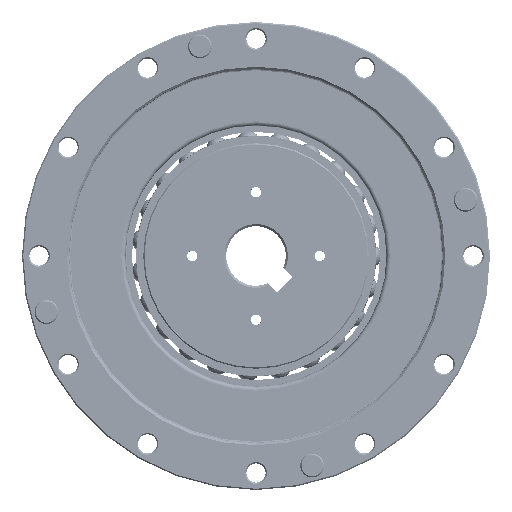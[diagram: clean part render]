
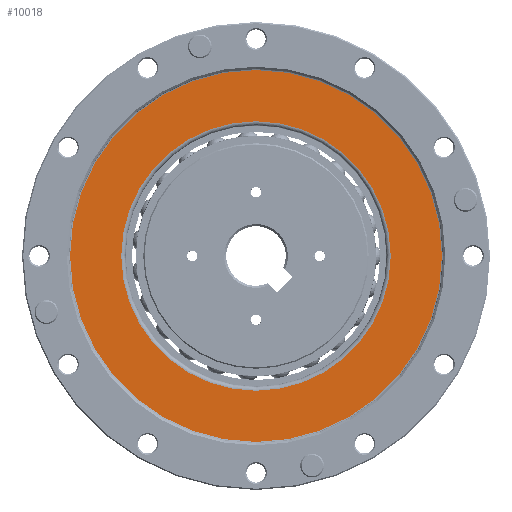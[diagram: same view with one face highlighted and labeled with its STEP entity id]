
A CAD part, front view. The second image highlights one B-rep face of the part: STEP entity #10018.
In plain terms, the highlighted planar face has unit normal (0, -1, 0).
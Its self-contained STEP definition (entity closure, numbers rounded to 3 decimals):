
#602=PLANE('',#13155);
#2131=EDGE_LOOP('',(#5643));
#2132=EDGE_LOOP('',(#5644));
#2870=CIRCLE('',#13153,43.7);
#2871=CIRCLE('',#13154,31.67);
#5643=ORIENTED_EDGE('',*,*,#7938,.T.);
#5644=ORIENTED_EDGE('',*,*,#7939,.F.);
#7938=EDGE_CURVE('',#11917,#11917,#2870,.T.);
#7939=EDGE_CURVE('',#11918,#11918,#2871,.T.);
#10018=ADVANCED_FACE('',(#10909,#10910),#602,.F.);
#10909=FACE_BOUND('',#2131,.T.);
#10910=FACE_BOUND('',#2132,.T.);
#11917=VERTEX_POINT('',#80687);
#11918=VERTEX_POINT('',#80689);
#13153=AXIS2_PLACEMENT_3D('',#80686,#15535,#15536);
#13154=AXIS2_PLACEMENT_3D('',#80688,#15537,#15538);
#13155=AXIS2_PLACEMENT_3D('',#80690,#15539,#15540);
#15535=DIRECTION('',(0.,-1.,0.));
#15536=DIRECTION('',(0.,0.,1.));
#15537=DIRECTION('',(0.,-1.,0.));
#15538=DIRECTION('',(0.,0.,-1.));
#15539=DIRECTION('',(0.,1.,0.));
#15540=DIRECTION('',(0.,0.,1.));
#80686=CARTESIAN_POINT('',(0.,-30.6,0.));
#80687=CARTESIAN_POINT('',(0.,-30.6,43.7));
#80688=CARTESIAN_POINT('',(0.,-30.6,0.));
#80689=CARTESIAN_POINT('',(0.,-30.6,-31.67));
#80690=CARTESIAN_POINT('',(44.8,-30.6,0.));
